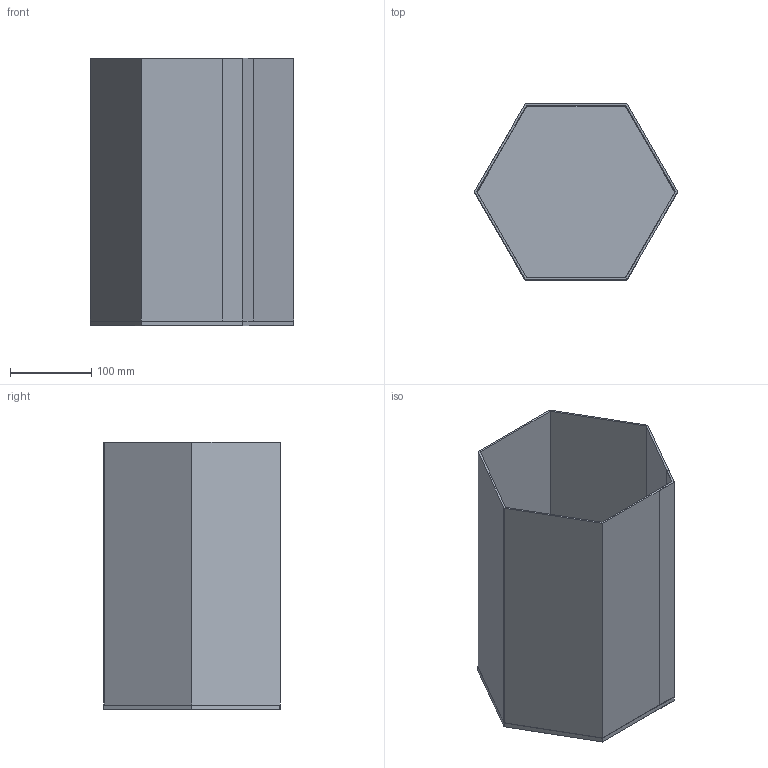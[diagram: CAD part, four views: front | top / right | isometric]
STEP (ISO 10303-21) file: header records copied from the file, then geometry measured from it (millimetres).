
FILE_DESCRIPTION(/* description */ (''),/* implementation_level */ '2;1');
FILE_NAME(/* name */ 'Sicilia Cardboard',/* time_stamp */ '2025-06-25T15:55:34+02:00',/* author */ (''),/* organization */ (''),/* preprocessor_version */ 'ST-DEVELOPER v16.5',/* originating_system */ 'Rhino 7.37',/* authorisation */ '');
FILE_SCHEMA (('AUTOMOTIVE_DESIGN'));
Length unit declared in the file: millimetre
Products named in the file (1): Document
Bounding box: 249.94 x 216.71 x 329 mm (x, y, z)
Volume: 1497283.6 mm3; surface area: 646039.4 mm2
Topology: 41 solids, 41 shells, 537 faces, 1314 edges, 839 vertices
Faces by surface type: plane 379, bspline 115, cylinder 43
Entity records: 19552 total; most frequent: CARTESIAN_POINT 10110, ORIENTED_EDGE 2586, EDGE_CURVE 1293, B_SPLINE_CURVE_WITH_KNOTS 1192, VERTEX_POINT 839, EDGE_LOOP 584, ADVANCED_FACE 537, FACE_OUTER_BOUND 537
